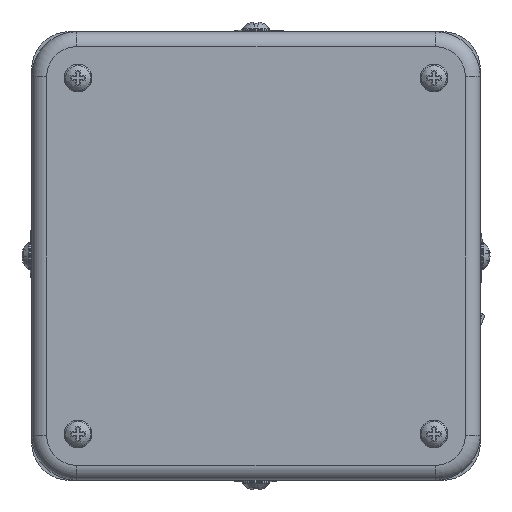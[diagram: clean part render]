
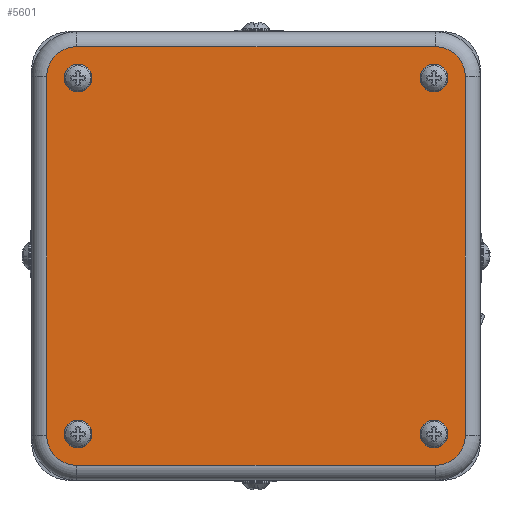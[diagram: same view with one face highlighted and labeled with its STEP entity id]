
A CAD part, left-side view. The second image highlights one B-rep face of the part: STEP entity #5601.
In plain terms, the highlighted planar face has unit normal (-1, 0, 0).
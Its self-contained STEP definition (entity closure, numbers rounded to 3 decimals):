
#1865=CARTESIAN_POINT('',(-108.076,-16.479,34.671));
#1866=VERTEX_POINT('',#1865);
#1867=CARTESIAN_POINT('',(-108.076,-16.479,37.471));
#1868=DIRECTION('',(1.0,0.0,0.0));
#1869=DIRECTION('',(0.0,0.0,1.0));
#1870=AXIS2_PLACEMENT_3D('',#1867,#1868,#1869);
#1871=CIRCLE('',#1870,2.8);
#1872=EDGE_CURVE('',#1866,#1866,#1871,.T.);
#2474=CARTESIAN_POINT('',(-108.076,-16.479,-36.747));
#2475=VERTEX_POINT('',#2474);
#2476=CARTESIAN_POINT('',(-108.076,-16.479,-33.947));
#2477=DIRECTION('',(1.0,0.0,0.0));
#2478=DIRECTION('',(0.0,0.0,1.0));
#2479=AXIS2_PLACEMENT_3D('',#2476,#2477,#2478);
#2480=CIRCLE('',#2479,2.8);
#2481=EDGE_CURVE('',#2475,#2475,#2480,.T.);
#5498=CARTESIAN_POINT('',(-108.076,12.203,-5.266));
#5499=DIRECTION('',(1.0,0.0,0.0));
#5500=DIRECTION('',(0.0,0.0,-1.0));
#5501=AXIS2_PLACEMENT_3D('',#5498,#5499,#5500);
#5502=PLANE('',#5501);
#5503=CARTESIAN_POINT('',(-108.076,-22.77,-34.238));
#5504=VERTEX_POINT('',#5503);
#5505=CARTESIAN_POINT('',(-108.076,-16.77,-40.238));
#5506=VERTEX_POINT('',#5505);
#5507=CARTESIAN_POINT('',(-108.076,-16.77,-34.238));
#5508=DIRECTION('',(1.0,0.,0.));
#5509=DIRECTION('',(0.,-0.707,-0.707));
#5510=AXIS2_PLACEMENT_3D('',#5507,#5508,#5509);
#5511=CIRCLE('',#5510,6.);
#5512=EDGE_CURVE('',#5504,#5506,#5511,.T.);
#5513=ORIENTED_EDGE('',*,*,#5512,.F.);
#5514=CARTESIAN_POINT('',(-108.076,-22.77,37.762));
#5515=VERTEX_POINT('',#5514);
#5516=CARTESIAN_POINT('',(-108.076,-22.77,37.762));
#5517=DIRECTION('',(0.0,0.0,-1.0));
#5518=VECTOR('',#5517,72.0);
#5519=LINE('',#5516,#5518);
#5520=EDGE_CURVE('',#5515,#5504,#5519,.T.);
#5521=ORIENTED_EDGE('',*,*,#5520,.F.);
#5522=CARTESIAN_POINT('',(-108.076,-16.77,43.762));
#5523=VERTEX_POINT('',#5522);
#5524=CARTESIAN_POINT('',(-108.076,-16.77,37.762));
#5525=DIRECTION('',(1.0,0.,0.));
#5526=DIRECTION('',(0.,-0.707,0.707));
#5527=AXIS2_PLACEMENT_3D('',#5524,#5525,#5526);
#5528=CIRCLE('',#5527,6.);
#5529=EDGE_CURVE('',#5523,#5515,#5528,.T.);
#5530=ORIENTED_EDGE('',*,*,#5529,.F.);
#5531=CARTESIAN_POINT('',(-108.076,55.23,43.762));
#5532=VERTEX_POINT('',#5531);
#5533=CARTESIAN_POINT('',(-108.076,55.23,43.762));
#5534=DIRECTION('',(0.0,-1.0,0.0));
#5535=VECTOR('',#5534,72.0);
#5536=LINE('',#5533,#5535);
#5537=EDGE_CURVE('',#5532,#5523,#5536,.T.);
#5538=ORIENTED_EDGE('',*,*,#5537,.F.);
#5539=CARTESIAN_POINT('',(-108.076,61.23,37.762));
#5540=VERTEX_POINT('',#5539);
#5541=CARTESIAN_POINT('',(-108.076,55.23,37.762));
#5542=DIRECTION('',(1.0,0.,0.));
#5543=DIRECTION('',(0.,0.707,0.707));
#5544=AXIS2_PLACEMENT_3D('',#5541,#5542,#5543);
#5545=CIRCLE('',#5544,6.);
#5546=EDGE_CURVE('',#5540,#5532,#5545,.T.);
#5547=ORIENTED_EDGE('',*,*,#5546,.F.);
#5548=CARTESIAN_POINT('',(-108.076,61.23,-34.238));
#5549=VERTEX_POINT('',#5548);
#5550=CARTESIAN_POINT('',(-108.076,61.23,-34.238));
#5551=DIRECTION('',(0.0,0.0,1.0));
#5552=VECTOR('',#5551,72.);
#5553=LINE('',#5550,#5552);
#5554=EDGE_CURVE('',#5549,#5540,#5553,.T.);
#5555=ORIENTED_EDGE('',*,*,#5554,.F.);
#5556=CARTESIAN_POINT('',(-108.076,55.23,-40.238));
#5557=VERTEX_POINT('',#5556);
#5558=CARTESIAN_POINT('',(-108.076,55.23,-34.238));
#5559=DIRECTION('',(1.0,0.,0.));
#5560=DIRECTION('',(0.,0.707,-0.707));
#5561=AXIS2_PLACEMENT_3D('',#5558,#5559,#5560);
#5562=CIRCLE('',#5561,6.);
#5563=EDGE_CURVE('',#5557,#5549,#5562,.T.);
#5564=ORIENTED_EDGE('',*,*,#5563,.F.);
#5565=CARTESIAN_POINT('',(-108.076,-16.77,-40.238));
#5566=DIRECTION('',(0.0,1.0,0.0));
#5567=VECTOR('',#5566,72.0);
#5568=LINE('',#5565,#5567);
#5569=EDGE_CURVE('',#5506,#5557,#5568,.T.);
#5570=ORIENTED_EDGE('',*,*,#5569,.F.);
#5571=EDGE_LOOP('',(#5513,#5521,#5530,#5538,#5547,#5555,#5564,#5570));
#5572=FACE_OUTER_BOUND('',#5571,.T.);
#5573=CARTESIAN_POINT('',(-108.076,54.939,34.671));
#5574=VERTEX_POINT('',#5573);
#5575=CARTESIAN_POINT('',(-108.076,54.939,37.471));
#5576=DIRECTION('',(1.0,0.0,0.0));
#5577=DIRECTION('',(0.0,0.0,1.0));
#5578=AXIS2_PLACEMENT_3D('',#5575,#5576,#5577);
#5579=CIRCLE('',#5578,2.8);
#5580=EDGE_CURVE('',#5574,#5574,#5579,.T.);
#5581=ORIENTED_EDGE('',*,*,#5580,.T.);
#5582=EDGE_LOOP('',(#5581));
#5583=FACE_BOUND('',#5582,.T.);
#5584=ORIENTED_EDGE('',*,*,#1872,.T.);
#5585=EDGE_LOOP('',(#5584));
#5586=FACE_BOUND('',#5585,.T.);
#5587=CARTESIAN_POINT('',(-108.076,54.939,-36.747));
#5588=VERTEX_POINT('',#5587);
#5589=CARTESIAN_POINT('',(-108.076,54.939,-33.947));
#5590=DIRECTION('',(1.0,0.0,0.0));
#5591=DIRECTION('',(0.0,0.0,1.0));
#5592=AXIS2_PLACEMENT_3D('',#5589,#5590,#5591);
#5593=CIRCLE('',#5592,2.8);
#5594=EDGE_CURVE('',#5588,#5588,#5593,.T.);
#5595=ORIENTED_EDGE('',*,*,#5594,.T.);
#5596=EDGE_LOOP('',(#5595));
#5597=FACE_BOUND('',#5596,.T.);
#5598=ORIENTED_EDGE('',*,*,#2481,.T.);
#5599=EDGE_LOOP('',(#5598));
#5600=FACE_BOUND('',#5599,.T.);
#5601=ADVANCED_FACE('',(#5572,#5583,#5586,#5597,#5600),#5502,.F.);
